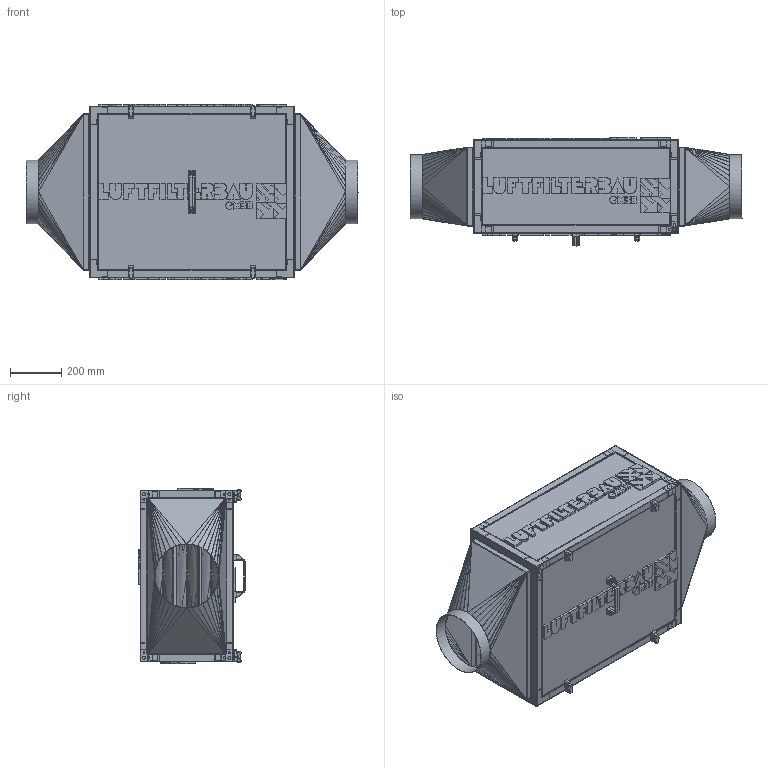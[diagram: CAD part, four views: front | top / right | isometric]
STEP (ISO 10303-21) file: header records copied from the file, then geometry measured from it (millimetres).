
FILE_DESCRIPTION(/* description */ (''),/* implementation_level */ '2;1');
FILE_NAME(/* name */ '\\hs-2000\Benutzer\00 Konstruktion\10_Inventor_Modelle\Inventor\HS-Vario Cat\72-VARIO-CAT-0000082\72-VARIO-CAT-0000082.stp',/* time_stamp */ '2018-08-07T13:39:45+02:00',/* author */ ('ap24'),/* organization */ (''),/* preprocessor_version */ 'ST-DEVELOPER v16.5',/* originating_system */ 'Autodesk Inventor 2017',/* authorisation */ '');
FILE_SCHEMA (('AUTOMOTIVE_DESIGN { 1 0 10303 214 3 1 1 }'));
Products named in the file (1): 72-VARIO-CAT-0000082
Bounding box: 1300.51 x 423 x 686 mm (x, y, z)
Volume: 7896976.8 mm3; surface area: 9752812.3 mm2
Topology: 15 solids, 31 shells, 6852 faces, 17200 edges, 10325 vertices
Faces by surface type: plane 4129, cylinder 1815, bspline 362, sphere 296, torus 134, cone 116
Full cylindrical faces by diameter (mm): 2 x46, 3 x1, 3.1 x2, 6 x8, 6.2 x2, 6.5 x1, 7 x32, 8 x8, 9 x4, 10 x4, 12 x8, 13 x2, 247 x2, 250 x2
Entity records: 217406 total; most frequent: CARTESIAN_POINT 50336, ORIENTED_EDGE 33576, DIRECTION 32992, EDGE_CURVE 16766, LINE 11872, VECTOR 11872, AXIS2_PLACEMENT_3D 10560, VERTEX_POINT 10146
